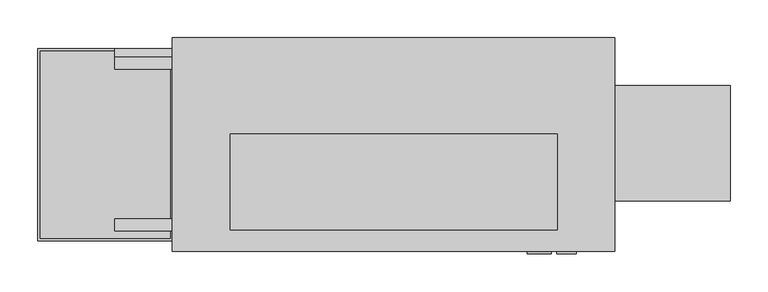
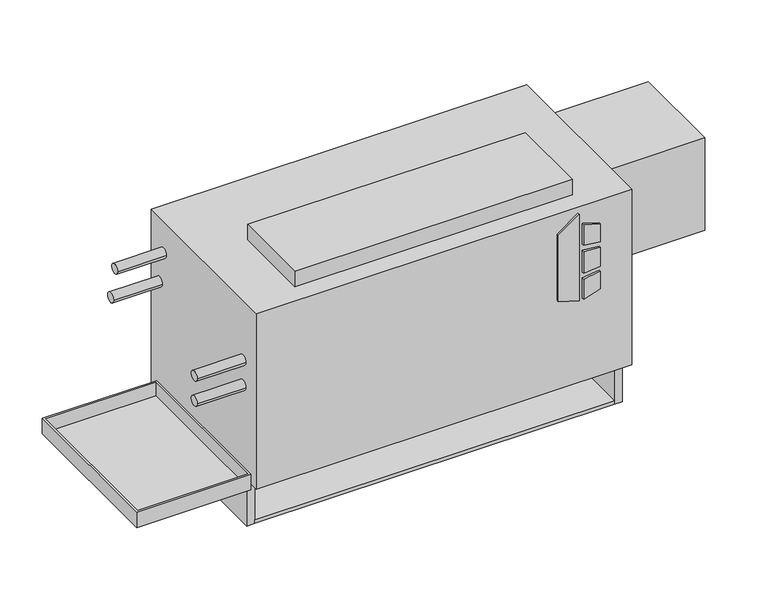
"""IFC4 building model written with IfcOpenShell, lengths in millimetres: proxy geometry, Concealed_Vertical_Low_Boy_Fan_Coil_Unit Fan_-_LHA_-_IEC_-_4-Pipe_LH_2022 : Size 02 - 277v/60Hz/1Ph - 2/1 Coil."""

import ifcopenshell
import ifcopenshell.guid

model = None  # the IFC model being written
_history = None  # IfcOwnerHistory: only IFC2X3 demands one
_inside = {}  # id of a spatial element -> (the spatial element, [elements in it])
_under = {}  # id of a project, library or spatial element -> (it, [spatial elements below it])
_declared = {}  # id of a project -> (the project, [libraries it declares])
_typed = {}  # id of a type object -> (the type object, [elements of that type])
_made_of = {}  # id of a material, layer set ... -> (it, [elements and type objects made of it])


def new_model(schema):
    """Start an empty IFC model of exactly this schema.

    Asked for "IFC4X3", IfcOpenShell would pick the latest addendum, in which some entities
    have other attributes; the version numbers below select the first issue.
    IFC2X3 requires an IfcOwnerHistory on every rooted entity: one is made here for all.
    """
    global model, _history
    if schema == "IFC4X3":
        model = ifcopenshell.file(schema_version=(4, 3, 0, 0))
    else:
        model = ifcopenshell.file(schema=schema)
    _inside.clear()
    _under.clear()
    _declared.clear()
    _typed.clear()
    _made_of.clear()
    _history = None
    if model.schema == "IFC2X3":
        org = make("IfcOrganization", Name="unknown")
        user = make(
            "IfcPersonAndOrganization",
            ThePerson=make("IfcPerson", FamilyName="unknown"),
            TheOrganization=org,
        )
        app = make(
            "IfcApplication",
            ApplicationDeveloper=org,
            Version="unknown",
            ApplicationFullName="unknown",
            ApplicationIdentifier="unknown",
        )
        _history = make(
            "IfcOwnerHistory",
            OwningUser=user,
            OwningApplication=app,
            ChangeAction="ADDED",
            CreationDate=0,
        )
    return model


def make(cls, **values):
    """One entity of the class cls with the attributes given. An attribute that is None is left unset."""
    return model.create_entity(
        cls, **{name: value for name, value in values.items() if value is not None}
    )


def rooted(cls, **values):
    """An entity with a GlobalId (a new one), such as an element, a storey or a relation."""
    return make(cls, GlobalId=ifcopenshell.guid.new(), OwnerHistory=_history, **values)


def si_unit(unit_type, name, prefix=None):
    """IfcSIUnit, for example si_unit("LENGTHUNIT", "METRE", prefix="MILLI")."""
    return make("IfcSIUnit", UnitType=unit_type, Prefix=prefix, Name=name)


def assignment(units):
    """IfcUnitAssignment: the units of a project."""
    return None if units is None else make("IfcUnitAssignment", Units=units)


def point(xyz):
    """IfcCartesianPoint."""
    return None if xyz is None else make("IfcCartesianPoint", Coordinates=xyz)


def direction(xyz):
    """IfcDirection."""
    return None if xyz is None else make("IfcDirection", DirectionRatios=xyz)


def frame(location, z_axis=None, x_axis=None):
    """IfcAxis2Placement3D, a coordinate frame: its origin and axes. An axis left out is left unset."""
    return make(
        "IfcAxis2Placement3D",
        Location=point(location),
        Axis=direction(z_axis),
        RefDirection=direction(x_axis),
    )


def frame_2d(location, x_axis=None):
    """IfcAxis2Placement2D, a coordinate frame in the plane: its origin and x axis."""
    return make(
        "IfcAxis2Placement2D", Location=point(location), RefDirection=direction(x_axis)
    )


def origin():
    """The frame at (0, 0, 0) with its axes left unset."""
    return frame((0.0, 0.0, 0.0))


def origin_with_axes():
    """The frame at (0, 0, 0) with the z axis (0, 0, 1) and the x axis (1, 0, 0) written out."""
    return frame((0.0, 0.0, 0.0), z_axis=(0.0, 0.0, 1.0), x_axis=(1.0, 0.0, 0.0))


def place(relative_to, where):
    """IfcLocalPlacement: puts the frame where relative to a parent placement (None: the world)."""
    return make(
        "IfcLocalPlacement", PlacementRelTo=relative_to, RelativePlacement=where
    )


def context(
    kind, dimensions, precision=None, world=None, true_north=None, identifier=None
):
    """IfcGeometricRepresentationContext, for example the 3D "Model" context."""
    return make(
        "IfcGeometricRepresentationContext",
        ContextIdentifier=identifier,
        ContextType=kind,
        CoordinateSpaceDimension=dimensions,
        Precision=precision,
        WorldCoordinateSystem=world,
        TrueNorth=true_north,
    )


def project(units=None, contexts=None):
    """IfcProject with its units and contexts."""
    return rooted(
        "IfcProject",
        Name="project",
        RepresentationContexts=contexts,
        UnitsInContext=assignment(units),
    )


def spatial(cls, under=None, at=None, **own):
    """A site, building, storey or space (cls), placed at a placement, below another one or the project."""
    s = rooted(cls, ObjectPlacement=at, **own)
    if under is not None:
        _under.setdefault(under.id(), (under, []))[1].append(s)
    return s


def polyline(points):
    """IfcPolyline through the points."""
    return make("IfcPolyline", Points=[point(p) for p in points])


def circle_curve(where, radius):
    """IfcCircle in the frame where."""
    return make("IfcCircle", Position=where, Radius=radius)


def trimmed(basis, trim1, trim2, sense, master):
    """IfcTrimmedCurve: the piece of a basis curve between two trims."""
    return make(
        "IfcTrimmedCurve",
        BasisCurve=basis,
        Trim1=trim1,
        Trim2=trim2,
        SenseAgreement=sense,
        MasterRepresentation=master,
    )


def segment(curve, same_sense, transition):
    """IfcCompositeCurveSegment."""
    return make(
        "IfcCompositeCurveSegment",
        Transition=transition,
        SameSense=same_sense,
        ParentCurve=curve,
    )


def composite_curve(segments, self_intersect=None):
    """IfcCompositeCurve: segments joined end to end."""
    return make("IfcCompositeCurve", Segments=segments, SelfIntersect=self_intersect)


def outline(outer, holes=None, kind="AREA"):
    """IfcArbitraryClosedProfileDef: a profile drawn as a closed curve; with holes, ...WithVoids."""
    if holes is None:
        return make("IfcArbitraryClosedProfileDef", ProfileType=kind, OuterCurve=outer)
    return make(
        "IfcArbitraryProfileDefWithVoids",
        ProfileType=kind,
        OuterCurve=outer,
        InnerCurves=holes,
    )


def extrude(swept, where, along, depth):
    """IfcExtrudedAreaSolid: the profile swept, set in the frame where, extruded along a direction by depth."""
    return make(
        "IfcExtrudedAreaSolid",
        SweptArea=swept,
        Position=where,
        ExtrudedDirection=direction(along),
        Depth=depth,
    )


def faces_of(points, faces, orient=None, outer=None):
    """IfcFace entities. A face is a list of loops; a loop is a list of indices into points, from 0.

    orient and outer hold one flag for each loop. By default every Orientation is true, the
    first loop of a face is its IfcFaceOuterBound and the others are IfcFaceBound.
    """
    made = []
    for i, loops in enumerate(faces):
        bounds = []
        for j, loop in enumerate(loops):
            is_outer = j == 0 if outer is None else outer[i][j]
            bounds.append(
                make(
                    "IfcFaceOuterBound" if is_outer else "IfcFaceBound",
                    Bound=make("IfcPolyLoop", Polygon=[points[k] for k in loop]),
                    Orientation=True if orient is None else orient[i][j],
                )
            )
        made.append(make("IfcFace", Bounds=bounds))
    return made


def faceted_brep(points, faces, orient=None, outer=None, voids=None):
    """IfcFacetedBrep: a solid bounded by flat faces; with voids (closed shells), ...WithVoids."""
    shared = [point(p) for p in points]
    hull = make("IfcClosedShell", CfsFaces=faces_of(shared, faces, orient, outer))
    if voids is None:
        return make("IfcFacetedBrep", Outer=hull)
    return make(
        "IfcFacetedBrepWithVoids",
        Outer=hull,
        Voids=[
            make(cls, CfsFaces=faces_of(shared, fs, o, b)) for cls, fs, o, b in voids
        ],
    )


def shape(context_of_items, identifier, shape_type, items):
    """IfcShapeRepresentation: the items that make up one representation, for example the "Body"."""
    return make(
        "IfcShapeRepresentation",
        ContextOfItems=context_of_items,
        RepresentationIdentifier=identifier,
        RepresentationType=shape_type,
        Items=items,
    )


def source(mapping_origin, context_of_items, identifier, shape_type, items):
    """IfcRepresentationMap: a shape defined once, which mapped items show again and again."""
    return make(
        "IfcRepresentationMap",
        MappingOrigin=mapping_origin,
        MappedRepresentation=shape(context_of_items, identifier, shape_type, items),
    )


def transform(
    local_origin,
    x_axis=None,
    y_axis=None,
    z_axis=None,
    scale=None,
    scale2=None,
    scale3=None,
    uniform=True,
):
    """IfcCartesianTransformationOperator3D, or its non-uniform kind. x_axis, y_axis, z_axis: its Axis1, 2, 3."""
    if uniform:
        return make(
            "IfcCartesianTransformationOperator3D",
            Axis1=direction(x_axis),
            Axis2=direction(y_axis),
            LocalOrigin=point(local_origin),
            Scale=scale,
            Axis3=direction(z_axis),
        )
    return make(
        "IfcCartesianTransformationOperator3DnonUniform",
        Axis1=direction(x_axis),
        Axis2=direction(y_axis),
        LocalOrigin=point(local_origin),
        Scale=scale,
        Axis3=direction(z_axis),
        Scale2=scale2,
        Scale3=scale3,
    )


def mapped(mapping_source, mapping_target):
    """IfcMappedItem: shows the shape of a source again, moved by a transform."""
    return make(
        "IfcMappedItem", MappingSource=mapping_source, MappingTarget=mapping_target
    )


def made_of(thing, what):
    """Note that an element or type object is made of a material, layer set ...; save() writes the relation."""
    if what is not None:
        _made_of.setdefault(what.id(), (what, []))[1].append(thing)
    return thing


def element(
    cls,
    number,
    at=None,
    inside=None,
    cuts=None,
    type_object=None,
    material=None,
    context=None,
    identifier="Body",
    shape_type=None,
    held_by="IfcProductDefinitionShape",
    body=None,
    shapes=None,
    **own,
):
    """One element of the class cls, such as IfcWall. Its Tag is "e" and its number.

    at: its placement. inside: the storey or other place that contains it. cuts: it is an
    opening in that element (IfcRelVoidsElement). A single representation is given by context,
    identifier, shape_type and body (its items); several are given by shapes. held_by: the class
    of the entity that holds the representations. save() writes the other relations.
    """
    e = rooted(cls, Tag="e%d" % number, ObjectPlacement=at, **own)
    if body is not None:
        shapes = [shape(context, identifier, shape_type, body)]
    if shapes is not None:
        e.Representation = make(held_by, Representations=shapes)
    if inside is not None:
        _inside.setdefault(inside.id(), (inside, []))[1].append(e)
    if cuts is not None:
        rooted(
            "IfcRelVoidsElement", RelatingBuildingElement=cuts, RelatedOpeningElement=e
        )
    if type_object is not None:
        _typed.setdefault(type_object.id(), (type_object, []))[1].append(e)
    return made_of(e, material)


def aggregate(whole, parts):
    """IfcRelAggregates: a whole, such as a stair, and the parts it consists of."""
    return rooted("IfcRelAggregates", RelatingObject=whole, RelatedObjects=parts)


def save(model, path):
    """Write the relations noted so far, then the file.

    IfcRelAggregates (storeys below a building ...), IfcRelContainedInSpatialStructure (elements
    in a storey), IfcRelDefinesByType, IfcRelAssociatesMaterial and IfcRelDeclares: one each for
    every whole, place, type object, material and project.
    """
    for whole, parts in _under.values():
        aggregate(whole, parts)
    for where, things in _inside.values():
        rooted(
            "IfcRelContainedInSpatialStructure",
            RelatedElements=things,
            RelatingStructure=where,
        )
    for kind, things in _typed.values():
        rooted("IfcRelDefinesByType", RelatedObjects=things, RelatingType=kind)
    for what, things in _made_of.values():
        rooted("IfcRelAssociatesMaterial", RelatedObjects=things, RelatingMaterial=what)
    for by, libraries in _declared.values():
        rooted("IfcRelDeclares", RelatingContext=by, RelatedDefinitions=libraries)
    model.write(path)


def mechanical_equipment_046a6d8f(model_context):
    return source(origin(), model_context, "Body", "SolidModel", [
        faceted_brep([(152.4, -252.4125, 92.075), (-25.4, -252.4125, 92.075), (-25.4, -506.4125, 92.075), (152.4, -506.4125, 92.075), (-22.225, -255.5875, 92.075), (149.225, -255.5875, 92.075), (149.225, -503.2375, 92.075), (-22.225, -503.2375, 92.075), (152.4, -252.4125, 66.675), (152.4, -506.4125, 66.675), (-25.4, -506.4125, 66.675), (-25.4, -252.4125, 66.675), (149.225, -255.5875, 69.8497888), (-22.225, -255.5875, 69.8497888), (-22.225, -503.2375, 69.8497888), (149.225, -503.2375, 69.8497888)], [[[0, 1, 2, 3], [4, 5, 6, 7]], [[8, 9, 10, 11]], [[1, 0, 8, 11]], [[2, 1, 11, 10]], [[3, 2, 10, 9]], [[0, 3, 9, 8]], [[12, 13, 14, 15]], [[13, 12, 5, 4]], [[14, 13, 4, 7]], [[15, 14, 7, 6]], [[12, 15, 6, 5]]]),
        extrude(outline(composite_curve([segment(trimmed(circle_curve(frame_2d((63.5, -379.4125)), 9.525), [point((53.975, -379.4125))], [point((73.025, -379.4125))], False, "CARTESIAN"), True, "CONTINUOUS"), segment(trimmed(circle_curve(frame_2d((63.5, -379.4125)), 9.525), [point((73.025, -379.4125))], [point((53.975, -379.4125))], False, "CARTESIAN"), True, "CONTINUOUS")], self_intersect=False)), frame((0.0, 0.0, 41.275), z_axis=(0.0, 0.0, 1.0), x_axis=(1.0, 0.0, 0.0)), (0.0, 0.0, 1.0), 25.4),
        extrude(outline(polyline([(222.6730703, 620.7868862), (212.725, 652.9602728), (354.8959244, 652.9602728), (331.8739183, 620.7868862), (222.6730703, 620.7868862)])), frame((0.0, -523.875, 0.0), z_axis=(0.0, 1.0, 0.0), x_axis=(0.0, 0.0, 1.0)), (0.0, 0.0, 1.0), 3.175),
        extrude(outline(polyline([(301.6723557, 659.7186058), (298.4699632, 685.8), (327.6988042, 685.8), (335.7632193, 659.7186058), (301.6723557, 659.7186058)])), frame((0.0, -523.875, 0.0), z_axis=(0.0, 1.0, 0.0), x_axis=(0.0, 0.0, 1.0)), (0.0, 0.0, 1.0), 3.175),
        extrude(outline(polyline([(249.8088288, 685.8), (246.1433279, 659.7186058), (212.725, 659.7186058), (221.3592372, 685.8), (249.8088288, 685.8)])), frame((0.0, -523.875, 0.0), z_axis=(0.0, 1.0, 0.0), x_axis=(0.0, 0.0, 1.0)), (0.0, 0.0, 1.0), 3.175),
        extrude(outline(polyline([(289.1239903, 685.8), (291.4058166, 659.7186058), (255.4682681, 659.7186058), (258.2095331, 685.8), (289.1239903, 685.8)])), frame((0.0, -523.875, 0.0), z_axis=(0.0, 1.0, 0.0), x_axis=(0.0, 0.0, 1.0)), (0.0, 0.0, 1.0), 3.175),
        extrude(outline(polyline([(660.4, -365.125), (660.4, -492.125), (228.6, -492.125), (228.6, -365.125), (660.4, -365.125)])), frame((0.0, 0.0, 365.125), z_axis=(0.0, 0.0, 1.0), x_axis=(1.0, 0.0, 0.0)), (0.0, 0.0, 1.0), 25.4),
        extrude(outline(polyline([(736.6, -520.7), (152.4, -520.7), (152.4, -238.125), (736.6, -238.125), (736.6, -520.7)])), frame((0.0, 0.0, 76.2), z_axis=(0.0, 0.0, 1.0), x_axis=(1.0, 0.0, 0.0)), (0.0, 0.0, 1.0), 288.925),
        extrude(outline(polyline([(723.9, -495.3), (165.1, -495.3), (165.1, -244.475), (723.9, -244.475), (723.9, -495.3)])), origin_with_axes(), (0.0, 0.0, 1.0), 6.35),
        extrude(outline(polyline([(723.9, -238.125), (723.9, -244.475), (165.1, -244.475), (165.1, -238.125), (723.9, -238.125)])), origin_with_axes(), (0.0, 0.0, 1.0), 76.2),
        extrude(outline(polyline([(736.6, -238.125), (736.6, -495.3), (723.9, -495.3), (723.9, -238.125), (736.6, -238.125)])), origin_with_axes(), (0.0, 0.0, 1.0), 76.2),
        extrude(outline(polyline([(165.1, -238.125), (165.1, -495.3), (152.4, -495.3), (152.4, -238.125), (165.1, -238.125)])), origin_with_axes(), (0.0, 0.0, 1.0), 76.2),
        extrude(outline(composite_curve([segment(trimmed(circle_curve(frame_2d((-271.4625, 314.325)), 7.9375), [point((-263.525, 314.325))], [point((-279.4, 314.325))], False, "CARTESIAN"), True, "CONTINUOUS"), segment(trimmed(circle_curve(frame_2d((-271.4625, 314.325)), 7.9375), [point((-279.4, 314.325))], [point((-263.525, 314.325))], False, "CARTESIAN"), True, "CONTINUOUS")], self_intersect=False)), frame((76.2, 0.0, 0.0), z_axis=(1.0, 0.0, 0.0), x_axis=(0.0, 1.0, 0.0)), (0.0, 0.0, 1.0), 76.2),
        extrude(outline(composite_curve([segment(trimmed(circle_curve(frame_2d((-260.35, 260.35)), 7.9375), [point((-252.4125, 260.35))], [point((-268.2875, 260.35))], False, "CARTESIAN"), True, "CONTINUOUS"), segment(trimmed(circle_curve(frame_2d((-260.35, 260.35)), 7.9375), [point((-268.2875, 260.35))], [point((-252.4125, 260.35))], False, "CARTESIAN"), True, "CONTINUOUS")], self_intersect=False)), frame((76.2, 0.0, 0.0), z_axis=(1.0, 0.0, 0.0), x_axis=(0.0, 1.0, 0.0)), (0.0, 0.0, 1.0), 76.2),
        extrude(outline(composite_curve([segment(trimmed(circle_curve(frame_2d((-485.775, 227.0125)), 7.9375), [point((-477.8375, 227.0125))], [point((-493.7125, 227.0125))], False, "CARTESIAN"), True, "CONTINUOUS"), segment(trimmed(circle_curve(frame_2d((-485.775, 227.0125)), 7.9375), [point((-493.7125, 227.0125))], [point((-477.8375, 227.0125))], False, "CARTESIAN"), True, "CONTINUOUS")], self_intersect=False)), frame((76.2, 0.0, 0.0), z_axis=(1.0, 0.0, 0.0), x_axis=(0.0, 1.0, 0.0)), (0.0, 0.0, 1.0), 76.2),
        extrude(outline(composite_curve([segment(trimmed(circle_curve(frame_2d((-485.775, 268.2875)), 7.9375), [point((-477.8375, 268.2875))], [point((-493.7125, 268.2875))], False, "CARTESIAN"), True, "CONTINUOUS"), segment(trimmed(circle_curve(frame_2d((-485.775, 268.2875)), 7.9375), [point((-493.7125, 268.2875))], [point((-477.8375, 268.2875))], False, "CARTESIAN"), True, "CONTINUOUS")], self_intersect=False)), frame((76.2, 0.0, 0.0), z_axis=(1.0, 0.0, 0.0), x_axis=(0.0, 1.0, 0.0)), (0.0, 0.0, 1.0), 76.2),
        extrude(outline(polyline([(736.6, -301.625), (889.0, -301.625), (889.0, -454.025), (736.6, -454.025), (736.6, -301.625)])), frame((0.0, 0.0, 203.5632719), z_axis=(0.0, 0.0, 1.0), x_axis=(1.0, 0.0, 0.0)), (0.0, 0.0, 1.0), 152.0367281),
    ])


if __name__ == "__main__":
    model = new_model("IFC4")
    model_context = context("Model", 3, world=origin())
    ifc_project = project(units=[si_unit("LENGTHUNIT", "METRE", prefix="MILLI")], contexts=[model_context])
    site = spatial("IfcSite", under=ifc_project)
    building = spatial("IfcBuilding", under=site)
    placement = place(None, origin())
    mechanical_equipment_shape = mechanical_equipment_046a6d8f(model_context)
    element("IfcBuildingElementProxy", 1, Name="Concealed_Vertical_Low_Boy_Fan_Coil_Unit Fan_-_LHA_-_IEC_-_4-Pipe_LH_2022 : Size 02 - 277v/60Hz/1Ph - 2/1 Coil", ObjectType="Concealed_Vertical_Low_Boy_Fan_Coil_Unit Fan_-_LHA_-_IEC_-_4-Pipe_LH_2022 : Size 02 - 277v/60Hz/1Ph - 2/1 Coil", at=placement, inside=building, context=model_context, shape_type="MappedRepresentation", body=[
        mapped(mechanical_equipment_shape, transform((0.0, 0.0, 0.0), x_axis=(1.0, 0.0, 0.0), y_axis=(0.0, 1.0, 0.0), z_axis=(0.0, 0.0, 1.0))),
    ])
    save(model, "model.ifc")
